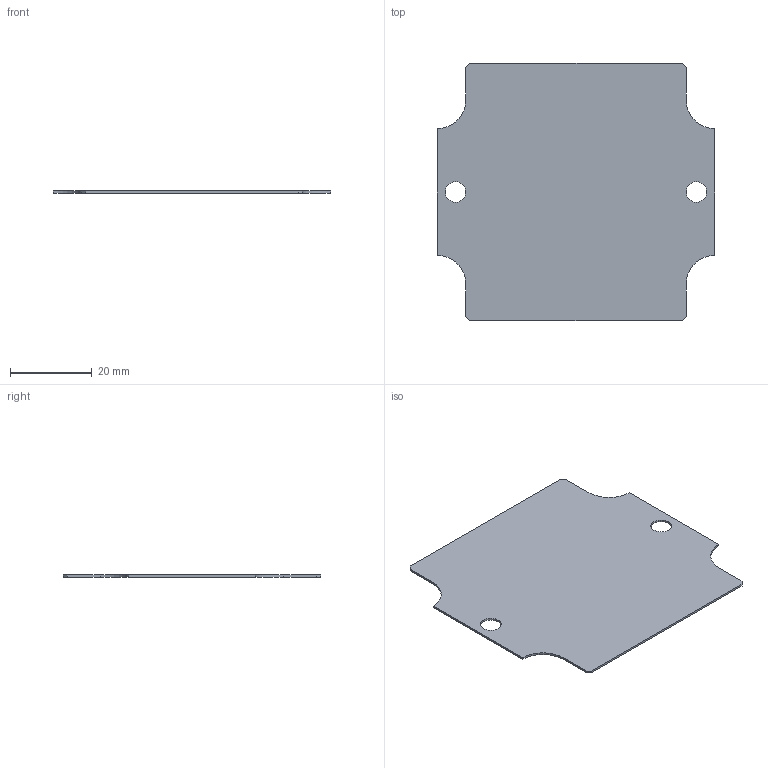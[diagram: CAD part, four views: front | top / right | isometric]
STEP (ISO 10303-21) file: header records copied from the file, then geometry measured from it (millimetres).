
FILE_DESCRIPTION((''),'2;1');
FILE_NAME('c:\temp\081PL.stp','2006-07-18T13:51:00',('kbond'),(''),'Autodesk Inventor 11','Autodesk Inventor 11','');
FILE_SCHEMA(('AUTOMOTIVE_DESIGN { 1 0 10303 214 1 1 1 1 }'));
Length unit declared in the file: millimetre
Products named in the file (1): 081PL
Bounding box: 68 x 63 x 0.5 mm (x, y, z)
Volume: 1918.4 mm3; surface area: 7813.1 mm2
Topology: 1 solids, 1 shells, 20 faces, 56 edges, 38 vertices
Faces by surface type: plane 14, cylinder 4, bspline 2
Entity records: 677 total; most frequent: CARTESIAN_POINT 143, ORIENTED_EDGE 104, DIRECTION 102, EDGE_CURVE 52, VECTOR 40, LINE 40, VERTEX_POINT 36, AXIS2_PLACEMENT_3D 31
